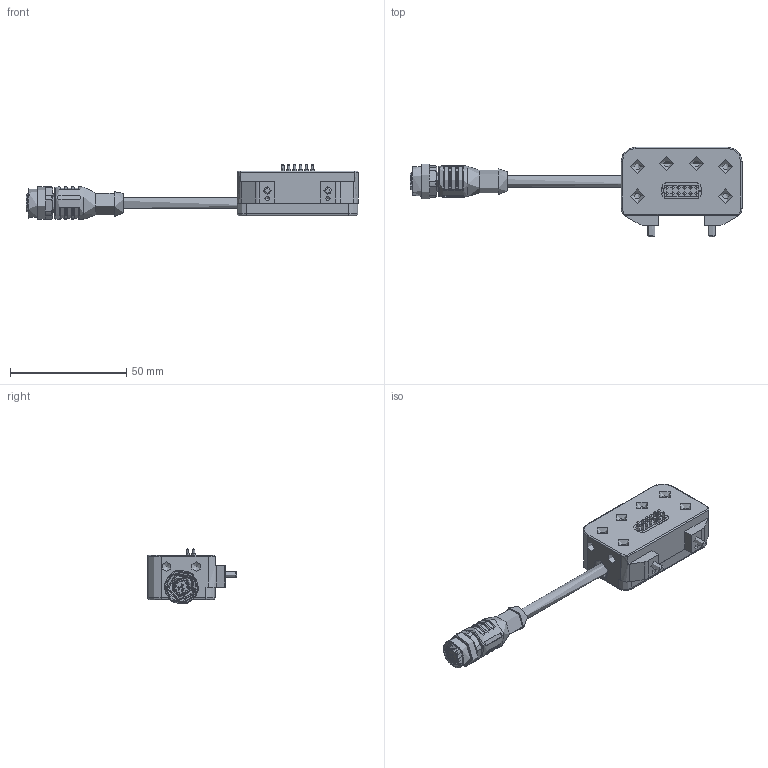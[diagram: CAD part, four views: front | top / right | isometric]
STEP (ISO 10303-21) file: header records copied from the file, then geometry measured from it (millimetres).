
FILE_DESCRIPTION(/* description */ (''),/* implementation_level */ '2;1');
FILE_NAME(/* name */ 'T:\CAD\Standard\SHW\SEK-P\SEK100\SEK100-6PM5-1FE12\G-SEK100-U-6PM5-1FE12-300-M12.stp',/* time_stamp */ '2022-02-15T14:35:39+01:00',/* author */ ('vbednarz'),/* organization */ (''),/* preprocessor_version */ 'ST-DEVELOPER v17',/* originating_system */ 'Autodesk Inventor 2018',/* authorisation */ '');
FILE_SCHEMA (('AUTOMOTIVE_DESIGN { 1 0 10303 214 3 1 1 }'));
Length unit declared in the file: millimetre
Products named in the file (1): G-SEK100-U-6PM5-1FE12-40-M8.step
Bounding box: 142.76 x 38.4 x 23.89 mm (x, y, z)
Volume: 32154.2 mm3; surface area: 16891.1 mm2
Topology: 4 solids, 12 shells, 851 faces, 2132 edges, 1421 vertices
Faces by surface type: plane 365, cylinder 223, bspline 154, cone 60, torus 49
Full cylindrical faces by diameter (mm): 0.7 x12, 0.97 x12, 1 x5, 1.07 x12, 1.5 x12, 1.65 x12, 1.8 x2, 1.98 x12, 2.02 x2, 2.05 x4, 2.5 x4, 2.8 x6, 2.9 x4, 3 x2, 3.4 x2, 4.2 x6, 4.5 x4, 5 x4, 5.2 x1, 5.5 x2, 5.8 x1, 6 x2, 8.7 x1, 10.2 x1, 10.95 x1, 12.3 x1, 12.8 x1, 14 x1, 15 x1
Entity records: 33273 total; most frequent: CARTESIAN_POINT 12195, ORIENTED_EDGE 4224, DIRECTION 4012, EDGE_CURVE 2112, AXIS2_PLACEMENT_3D 1517, VERTEX_POINT 1419, EDGE_LOOP 1025, LINE 978
